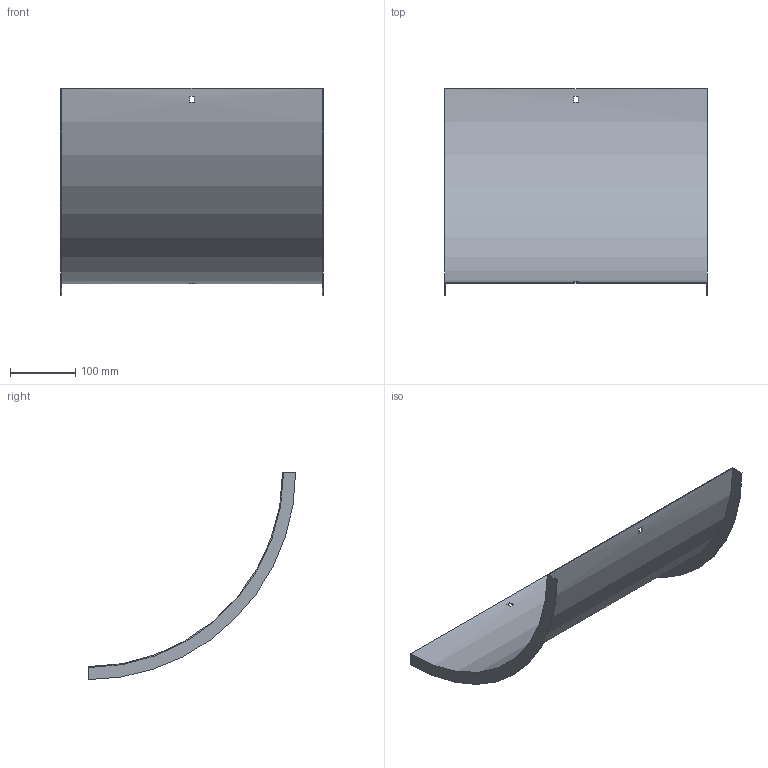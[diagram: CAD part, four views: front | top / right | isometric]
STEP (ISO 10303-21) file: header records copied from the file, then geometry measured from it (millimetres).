
FILE_DESCRIPTION (( 'STEP AP214' ), '1' );
FILE_NAME ('B2X30N3R400X.step', '2025-03-20T09:47:01', ( '' ), ( '' ), 'SwSTEP 2.0', 'SolidWorks 2023', '' );
FILE_SCHEMA (( 'AUTOMOTIVE_DESIGN' ));
Length unit declared in the file: millimetre
Products named in the file (1): B2X30N3R400X
Bounding box: 403 x 318.5 x 318.5 mm (x, y, z)
Volume: 310936.1 mm3; surface area: 417492 mm2
Topology: 1 solids, 1 shells, 18 faces, 48 edges, 32 vertices
Faces by surface type: plane 14, cylinder 4
Entity records: 599 total; most frequent: DIRECTION 102, CARTESIAN_POINT 99, ORIENTED_EDGE 96, EDGE_CURVE 48, AXIS2_PLACEMENT_3D 35, VECTOR 32, LINE 32, VERTEX_POINT 32
